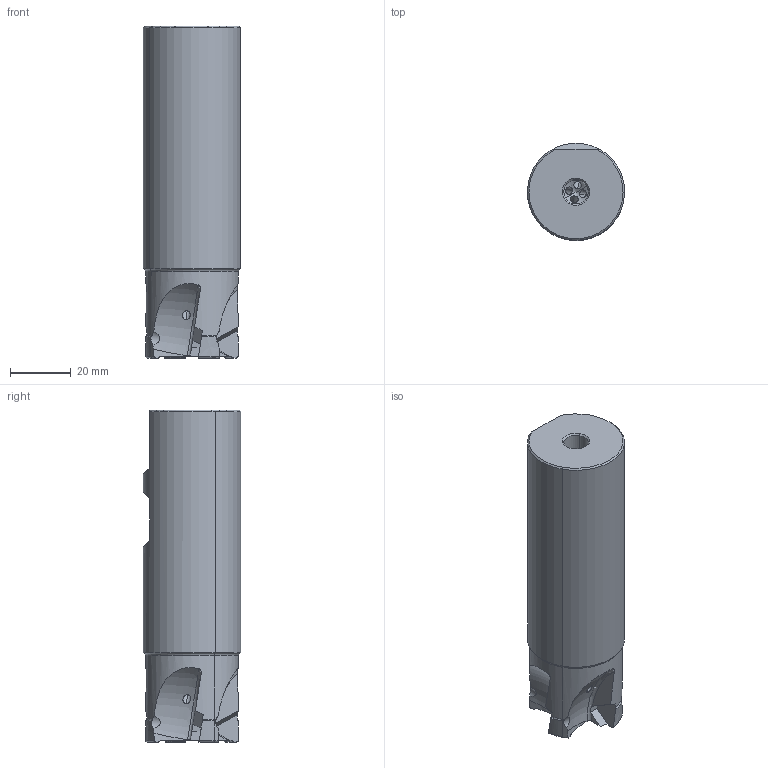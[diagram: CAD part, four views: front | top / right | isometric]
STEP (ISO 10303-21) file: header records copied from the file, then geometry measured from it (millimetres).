
FILE_DESCRIPTION(('CATIA V5 STEP'),'2;1');
FILE_NAME('I:\isr\design\admin8\users\yousef_k\3106419-D.stp','2012-11-14T15:33:59+00:00',('none'),('none'),'CATIA Version 5 Release 21 SP 3 (IN-10)','CATIA V5 STEP AP214','none');
FILE_SCHEMA(('AUTOMOTIVE_DESIGN { 1 0 10303 214 1 1 1 1 }'));
Length unit declared in the file: millimetre
Products named in the file (1): 61068271_0  HM390 ETP D32-4-W32-10
Bounding box: 31.99 x 31.99 x 109.4 mm (x, y, z)
Volume: 73908.4 mm3; surface area: 15129.2 mm2
Topology: 1 solids, 1 shells, 116 faces, 317 edges, 203 vertices
Faces by surface type: plane 35, torus 30, cylinder 29, cone 18, revolution 4
Entity records: 4032 total; most frequent: CARTESIAN_POINT 1509, ORIENTED_EDGE 630, DIRECTION 330, EDGE_CURVE 315, VERTEX_POINT 203, AXIS2_PLACEMENT_3D 167, B_SPLINE_CURVE_WITH_KNOTS 141, EDGE_LOOP 126
